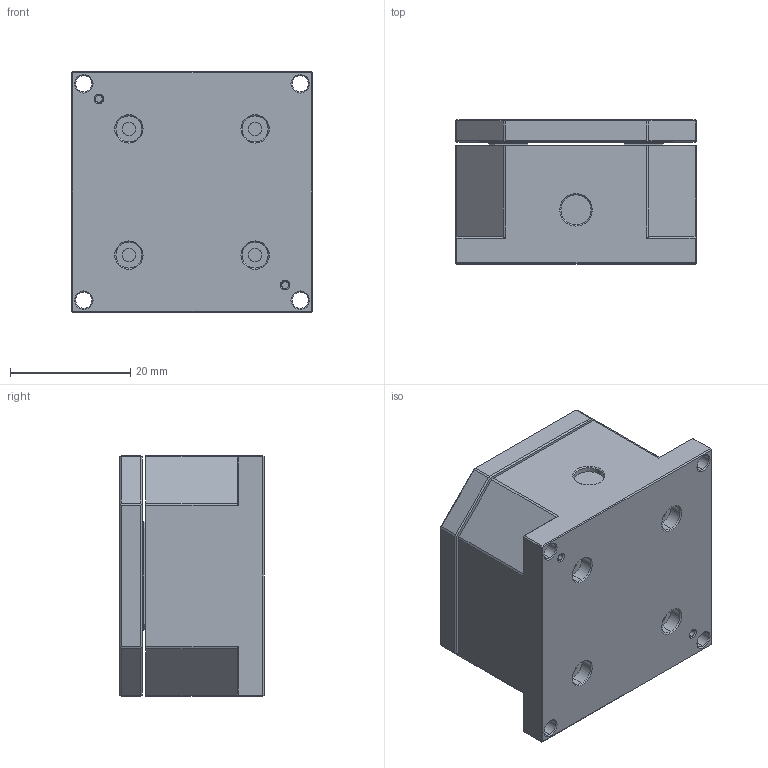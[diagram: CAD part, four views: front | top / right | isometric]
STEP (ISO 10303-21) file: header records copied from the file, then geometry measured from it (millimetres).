
FILE_DESCRIPTION (( 'STEP AP203' ), '1' );
FILE_NAME ('P63Z8.STEP', '2025-04-16T03:41:37', ( 'Windows User' ), ( 'P R C' ), 'SwSTEP 2.0', 'SolidWorks 2021', '' );
FILE_SCHEMA (( 'CONFIG_CONTROL_DESIGN' ));
Length unit declared in the file: millimetre
Products named in the file (1): P63Z8
Bounding box: 40 x 24 x 40 mm (x, y, z)
Volume: 34564.1 mm3; surface area: 10154.7 mm2
Topology: 2 solids, 2 shells, 273 faces, 656 edges, 420 vertices
Faces by surface type: plane 133, cylinder 74, cone 66
Entity records: 8053 total; most frequent: DIRECTION 1456, CARTESIAN_POINT 1350, ORIENTED_EDGE 1312, EDGE_CURVE 656, AXIS2_PLACEMENT_3D 526, VERTEX_POINT 420, LINE 404, VECTOR 404
